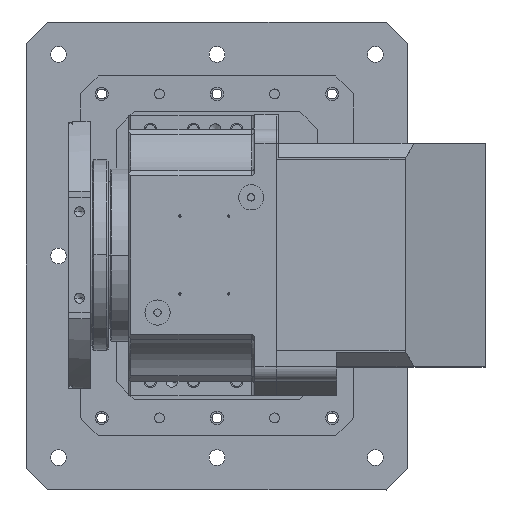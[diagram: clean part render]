
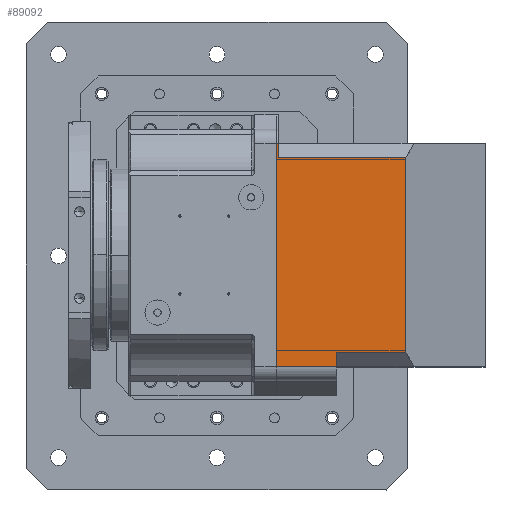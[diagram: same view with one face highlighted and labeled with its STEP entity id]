
A CAD part, top view. The second image highlights one B-rep face of the part: STEP entity #89092.
In plain terms, the highlighted planar face has unit normal (0, 0, 1) as drawn and (-1, 0, 0) by its records, which use the part's own axes.
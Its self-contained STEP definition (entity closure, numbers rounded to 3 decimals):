
#89056=AXIS2_PLACEMENT_3D('Plane Axis2P3D',#89053,#89054,#89055) ;
#88130=CARTESIAN_POINT('Vertex',(-1048.,3.152,-223.)) ;
#88133=CARTESIAN_POINT('Line Origine',(-1048.,3.152,-88.)) ;
#88137=CARTESIAN_POINT('Vertex',(-1048.,3.152,47.)) ;
#88228=CARTESIAN_POINT('Vertex',(-1048.,-176.848,-243.)) ;
#88305=CARTESIAN_POINT('Vertex',(-1048.,-176.848,67.)) ;
#88308=CARTESIAN_POINT('Line Origine',(-1048.,-176.848,-88.)) ;
#88806=CARTESIAN_POINT('Vertex',(-1048.,-173.848,-243.)) ;
#88809=CARTESIAN_POINT('Line Origine',(-1048.,-173.848,-253.)) ;
#88813=CARTESIAN_POINT('Vertex',(-1048.,-173.848,-223.)) ;
#89040=CARTESIAN_POINT('Line Origine',(-1048.,-85.348,-223.)) ;
#89053=CARTESIAN_POINT('Axis2P3D Location',(-1048.,-96.848,-263.)) ;
#89058=CARTESIAN_POINT('Line Origine',(-1048.,-134.848,67.)) ;
#89062=CARTESIAN_POINT('Vertex',(-1048.,-92.848,67.)) ;
#89065=CARTESIAN_POINT('Line Origine',(-1048.,-92.848,57.)) ;
#89069=CARTESIAN_POINT('Vertex',(-1048.,-92.848,47.)) ;
#89072=CARTESIAN_POINT('Line Origine',(-1048.,-44.848,47.)) ;
#89077=CARTESIAN_POINT('Line Origine',(-1048.,-175.348,-243.)) ;
#88134=DIRECTION('Vector Direction',(0.,0.,1.)) ;
#88309=DIRECTION('Vector Direction',(0.,0.,1.)) ;
#88810=DIRECTION('Vector Direction',(0.,0.,-1.)) ;
#89041=DIRECTION('Vector Direction',(0.,-1.,0.)) ;
#89054=DIRECTION('Axis2P3D Direction',(1.,0.,-0.)) ;
#89055=DIRECTION('Axis2P3D XDirection',(0.,1.,0.)) ;
#89059=DIRECTION('Vector Direction',(0.,1.,0.)) ;
#89066=DIRECTION('Vector Direction',(0.,0.,-1.)) ;
#89073=DIRECTION('Vector Direction',(0.,-1.,0.)) ;
#89078=DIRECTION('Vector Direction',(0.,1.,0.)) ;
#88135=VECTOR('Line Direction',#88134,1.) ;
#88310=VECTOR('Line Direction',#88309,1.) ;
#88811=VECTOR('Line Direction',#88810,1.) ;
#89042=VECTOR('Line Direction',#89041,1.) ;
#89060=VECTOR('Line Direction',#89059,1.) ;
#89067=VECTOR('Line Direction',#89066,1.) ;
#89074=VECTOR('Line Direction',#89073,1.) ;
#89079=VECTOR('Line Direction',#89078,1.) ;
#89083=ORIENTED_EDGE('',*,*,#88312,.T.) ;
#89084=ORIENTED_EDGE('',*,*,#89064,.F.) ;
#89085=ORIENTED_EDGE('',*,*,#89071,.T.) ;
#89086=ORIENTED_EDGE('',*,*,#89076,.F.) ;
#89087=ORIENTED_EDGE('',*,*,#88139,.F.) ;
#89088=ORIENTED_EDGE('',*,*,#89044,.T.) ;
#89089=ORIENTED_EDGE('',*,*,#88815,.T.) ;
#89090=ORIENTED_EDGE('',*,*,#89081,.F.) ;
#89092=ADVANCED_FACE('\X2\96F64EF651E04F554F53\X0\',(#89091),#89057,.F.) ;
#88139=EDGE_CURVE('',#88131,#88138,#88136,.T.) ;
#88312=EDGE_CURVE('',#88229,#88306,#88311,.T.) ;
#88815=EDGE_CURVE('',#88814,#88807,#88812,.T.) ;
#89044=EDGE_CURVE('',#88131,#88814,#89043,.T.) ;
#89064=EDGE_CURVE('',#89063,#88306,#89061,.F.) ;
#89071=EDGE_CURVE('',#89063,#89070,#89068,.T.) ;
#89076=EDGE_CURVE('',#88138,#89070,#89075,.T.) ;
#89081=EDGE_CURVE('',#88229,#88807,#89080,.T.) ;
#89082=EDGE_LOOP('',(#89083,#89084,#89085,#89086,#89087,#89088,#89089,#89090)) ;
#89091=FACE_OUTER_BOUND('',#89082,.T.) ;
#88136=LINE('Line',#88133,#88135) ;
#88311=LINE('Line',#88308,#88310) ;
#88812=LINE('Line',#88809,#88811) ;
#89043=LINE('Line',#89040,#89042) ;
#89061=LINE('Line',#89058,#89060) ;
#89068=LINE('Line',#89065,#89067) ;
#89075=LINE('Line',#89072,#89074) ;
#89080=LINE('Line',#89077,#89079) ;
#89057=PLANE('',#89056) ;
#88131=VERTEX_POINT('',#88130) ;
#88138=VERTEX_POINT('',#88137) ;
#88229=VERTEX_POINT('',#88228) ;
#88306=VERTEX_POINT('',#88305) ;
#88807=VERTEX_POINT('',#88806) ;
#88814=VERTEX_POINT('',#88813) ;
#89063=VERTEX_POINT('',#89062) ;
#89070=VERTEX_POINT('',#89069) ;
